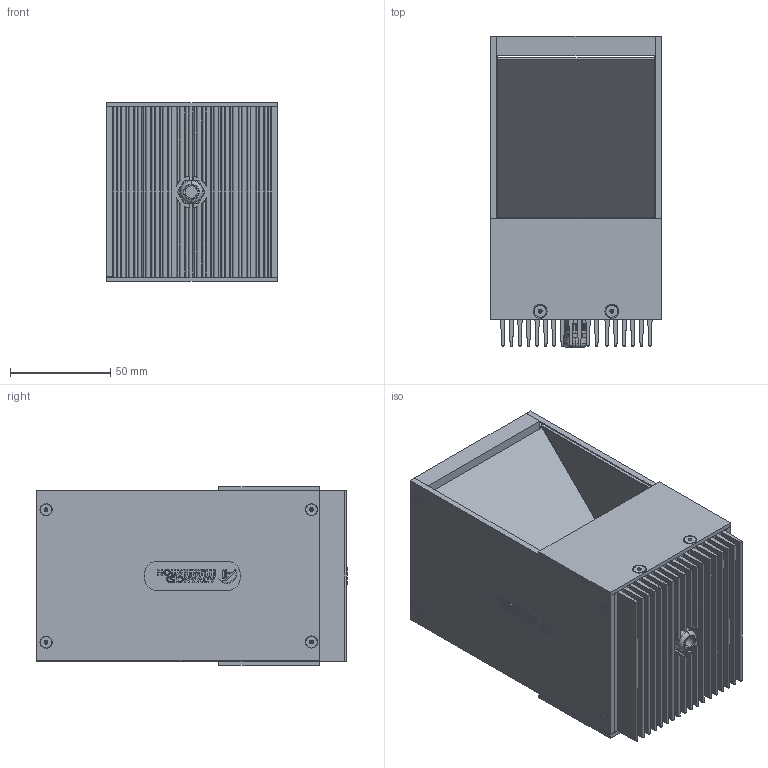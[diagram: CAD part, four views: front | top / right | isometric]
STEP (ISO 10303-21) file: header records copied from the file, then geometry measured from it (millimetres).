
FILE_DESCRIPTION (( 'STEP AP214' ), '1' );
FILE_NAME ('DL225-075_Default.stp', '2021-05-03T19:28:43', ( '' ), ( '' ), 'SwSTEP 2.0', 'SolidWorks 2018', '' );
FILE_SCHEMA (( 'AUTOMOTIVE_DESIGN' ));
Length unit declared in the file: inch
Products named in the file (20): 5413-54; 090154-03; 096453; 096452; 091053; 096450_Default<As Machined>; 096447_Default<As Machined>; 096443_Default<As Machined>; 096444_Default<As Machined>; FH-440X.25; CD10MW-BR_Model_Dome Fittings_Thread Type and Size(Dome)_M10 x 1.5_Hazardous Location-Explosive Proof(ATEX and EExe Versions)_No_; 105-03-009_Default<As Machined>; 096449; 096445_Default<As Machined>; DL225-075_Default; PHTHF-256x.1875; 096454; 096448_Default<As Machined>; 096446
Assembly tree (43 placements, depth 3):
  DL225-075_Default
    096443_Default<As Machined>
    096444_Default<As Machined>
    096445_Default<As Machined>
    096446  x2
    105-03-009_Default<As Machined>  x4
    096447_Default<As Machined>
    FH-440X.25  x12
    090154-03  x6
    096448_Default<As Machined>
    096449
    096450_Default<As Machined>
    091053  x2
      091053
    CD10MW-BR_Model_Dome Fittings_Thread Type and Size(Dome)_M10 x 1.5_Hazardous Location-Explosive Proof(ATEX and EExe Versions)_No_
    096452  x2
    096453  x2
    096454  x2
    5413-54
    PHTHF-256x.1875
Bounding box: 85.32 x 154.93 x 89.03 mm (x, y, z)
Volume: 323880.5 mm3; surface area: 279232.7 mm2
Topology: 43 solids, 43 shells, 2144 faces, 5354 edges, 3386 vertices
Faces by surface type: plane 1004, cylinder 645, cone 331, bspline 140, torus 24
Entity records: 65729 total; most frequent: CARTESIAN_POINT 33499, ORIENTED_EDGE 6312, DIRECTION 5344, EDGE_CURVE 3156, VERTEX_POINT 2036, AXIS2_PLACEMENT_3D 1790, VECTOR 1764, LINE 1764
